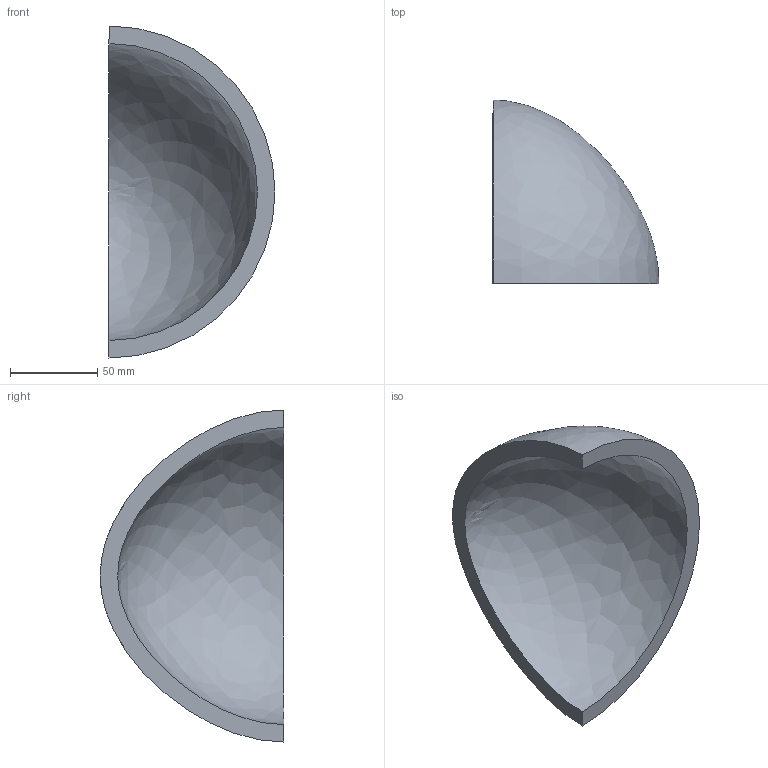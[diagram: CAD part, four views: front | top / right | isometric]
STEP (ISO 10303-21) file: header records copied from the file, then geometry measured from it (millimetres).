
FILE_DESCRIPTION(('CATIA V5 STEP Exchange'),'2;1');
FILE_NAME('C:\_Andres\UNIVERSIDAD\IQS\ASIGNATURAS\DAO\EXF\EXF-16172c\2inicio\Bosch_Dalmau_Ej10_v5.stp','2017-03-05T22:31:09+00:00',('none'),('none'),'CATIA Version 5-6 Release 2014 SP1 HF18','CATIA V5 STEP AP203','none');
FILE_SCHEMA(('CONFIG_CONTROL_DESIGN'));
Length unit declared in the file: millimetre
Products named in the file (1): Bosch_Dalmau_Ej10_v5
Bounding box: 95 x 105 x 190 mm (x, y, z)
Volume: 260549.6 mm3; surface area: 57965 mm2
Topology: 1 solids, 1 shells, 4 faces, 10 edges, 6 vertices
Faces by surface type: revolution 2, plane 2
Entity records: 233 total; most frequent: CARTESIAN_POINT 111, ORIENTED_EDGE 16, DIRECTION 10, EDGE_CURVE 8, B_SPLINE_CURVE_WITH_KNOTS 6, VERTEX_POINT 6, AXIS2_PLACEMENT_3D 5, ADVANCED_FACE 4
